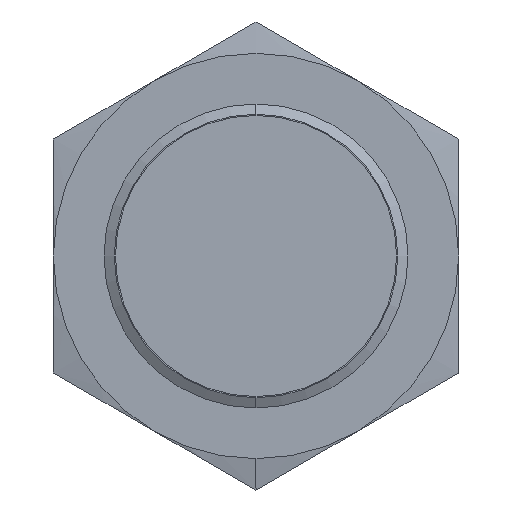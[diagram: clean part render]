
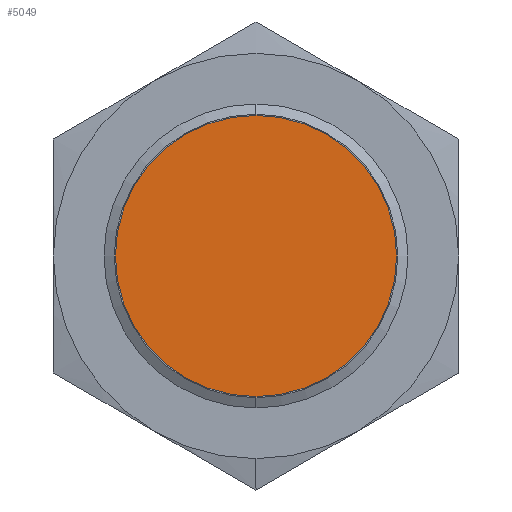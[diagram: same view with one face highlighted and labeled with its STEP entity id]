
A CAD part, left-side view. The second image highlights one B-rep face of the part: STEP entity #5049.
In plain terms, the highlighted planar face has unit normal (-1, 0, 0).
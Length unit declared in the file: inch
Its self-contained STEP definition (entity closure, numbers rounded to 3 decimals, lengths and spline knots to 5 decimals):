
#81 = FACE_OUTER_BOUND ( 'NONE', #4787, .T. ) ;
#82 = PLANE ( 'NONE',  #83 ) ;
#83 = AXIS2_PLACEMENT_3D ( 'NONE', #84, #85, #90 ) ;
#84 = CARTESIAN_POINT ( 'NONE',  ( 7.83468, 8.44799, 0. ) ) ;
#85 = DIRECTION ( 'NONE',  ( 1., 0., 0. ) ) ;
#90 = DIRECTION ( 'NONE',  ( 0., 0., -1. ) ) ;
#2281 = CARTESIAN_POINT ( 'NONE',  ( 7.83468, 8.44799, -0.3275 ) ) ;
#2693 = CIRCLE ( 'NONE', #2694, 0.3275 ) ;
#2694 = AXIS2_PLACEMENT_3D ( 'NONE', #2695, #2702, #2703 ) ;
#2695 = CARTESIAN_POINT ( 'NONE',  ( 7.83468, 8.44799, 0. ) ) ;
#2702 = DIRECTION ( 'NONE',  ( 1., 0., 0. ) ) ;
#2703 = DIRECTION ( 'NONE',  ( 0., 0., 1. ) ) ;
#2877 = VERTEX_POINT ( 'NONE', #12198 ) ;
#3131 = EDGE_CURVE ( 'NONE', #8529, #2877, #12405, .T. ) ;
#4056 = ORIENTED_EDGE ( 'NONE', *, *, #11933, .F. ) ;
#4787 = EDGE_LOOP ( 'NONE', ( #4056, #5207 ) ) ;
#5049 = ADVANCED_FACE ( 'NONE', ( #81 ), #82, .F. ) ;
#5207 = ORIENTED_EDGE ( 'NONE', *, *, #3131, .F. ) ;
#8529 = VERTEX_POINT ( 'NONE', #2281 ) ;
#11933 = EDGE_CURVE ( 'NONE', #2877, #8529, #2693, .T. ) ;
#12198 = CARTESIAN_POINT ( 'NONE',  ( 7.83468, 8.44799, 0.3275 ) ) ;
#12405 = CIRCLE ( 'NONE', #12406, 0.3275 ) ;
#12406 = AXIS2_PLACEMENT_3D ( 'NONE', #12407, #12408, #12409 ) ;
#12407 = CARTESIAN_POINT ( 'NONE',  ( 7.83468, 8.44799, 0. ) ) ;
#12408 = DIRECTION ( 'NONE',  ( 1., 0., 0. ) ) ;
#12409 = DIRECTION ( 'NONE',  ( 0., 0., 1. ) ) ;
